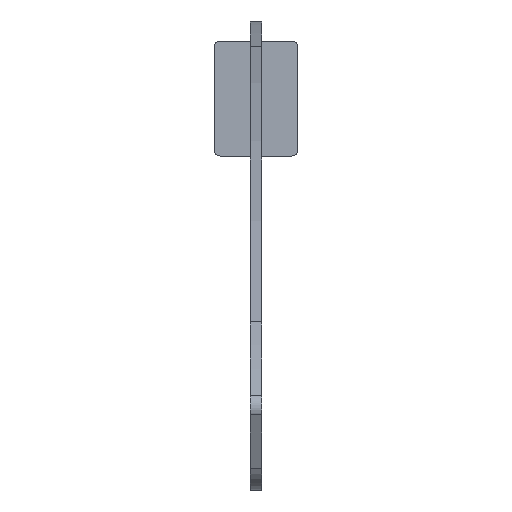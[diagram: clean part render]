
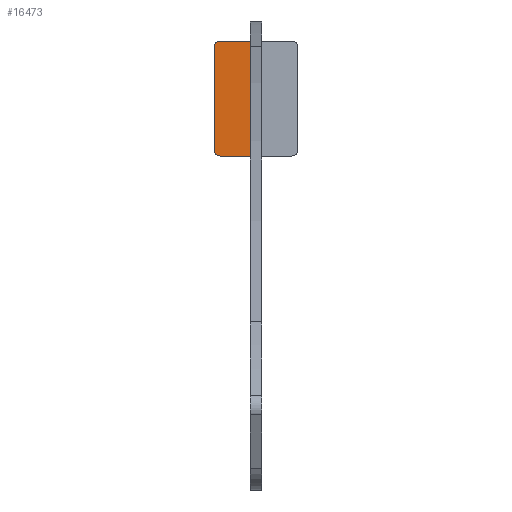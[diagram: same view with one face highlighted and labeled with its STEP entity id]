
A CAD part, front view. The second image highlights one B-rep face of the part: STEP entity #16473.
In plain terms, the highlighted planar face has unit normal (0, -1, 0).
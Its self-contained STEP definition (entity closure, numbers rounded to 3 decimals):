
#149 = CARTESIAN_POINT ( 'NONE',  ( -6.5, 0., -9.403 ) ) ;
#470 = VECTOR ( 'NONE', #1016, 1000. ) ;
#737 = CARTESIAN_POINT ( 'NONE',  ( -7.5, 0., -9.403 ) ) ;
#822 = ORIENTED_EDGE ( 'NONE', *, *, #17150, .T. ) ;
#1016 = DIRECTION ( 'NONE',  ( 0., 0., -1. ) ) ;
#1884 = AXIS2_PLACEMENT_3D ( 'NONE', #15625, #6680, #8384 ) ;
#1922 = ORIENTED_EDGE ( 'NONE', *, *, #14625, .T. ) ;
#3176 = CARTESIAN_POINT ( 'NONE',  ( -1., 0., -10.403 ) ) ;
#3283 = EDGE_CURVE ( 'NONE', #7817, #4105, #15095, .T. ) ;
#3294 = CARTESIAN_POINT ( 'NONE',  ( -7.5, 0., 9.403 ) ) ;
#4105 = VERTEX_POINT ( 'NONE', #11187 ) ;
#4106 = DIRECTION ( 'NONE',  ( 0., -1., 0. ) ) ;
#4158 = DIRECTION ( 'NONE',  ( -1., 0., 0. ) ) ;
#4391 = EDGE_CURVE ( 'NONE', #7123, #7817, #12631, .T. ) ;
#4488 = DIRECTION ( 'NONE',  ( 0., -1., 0. ) ) ;
#5184 = CIRCLE ( 'NONE', #18472, 1. ) ;
#5462 = PLANE ( 'NONE',  #1884 ) ;
#5610 = ORIENTED_EDGE ( 'NONE', *, *, #3283, .T. ) ;
#6680 = DIRECTION ( 'NONE',  ( 0., 1., 0. ) ) ;
#6870 = EDGE_CURVE ( 'NONE', #11157, #4105, #15440, .T. ) ;
#7123 = VERTEX_POINT ( 'NONE', #3294 ) ;
#7611 = DIRECTION ( 'NONE',  ( -1., 0., 0. ) ) ;
#7817 = VERTEX_POINT ( 'NONE', #737 ) ;
#8384 = DIRECTION ( 'NONE',  ( 0., 0., 1. ) ) ;
#8885 = ORIENTED_EDGE ( 'NONE', *, *, #4391, .T. ) ;
#8984 = LINE ( 'NONE', #3176, #12414 ) ;
#9932 = LINE ( 'NONE', #15687, #16075 ) ;
#9984 = AXIS2_PLACEMENT_3D ( 'NONE', #149, #4488, #13011 ) ;
#10169 = EDGE_CURVE ( 'NONE', #18293, #11157, #8984, .T. ) ;
#10426 = VECTOR ( 'NONE', #4158, 1000. ) ;
#11157 = VERTEX_POINT ( 'NONE', #16992 ) ;
#11187 = CARTESIAN_POINT ( 'NONE',  ( -6.5, 0., -10.403 ) ) ;
#11226 = DIRECTION ( 'NONE',  ( 0., 0., 1. ) ) ;
#11406 = ORIENTED_EDGE ( 'NONE', *, *, #10169, .F. ) ;
#12414 = VECTOR ( 'NONE', #13124, 1000. ) ;
#12436 = CARTESIAN_POINT ( 'NONE',  ( -6.5, 0., 9.403 ) ) ;
#12631 = LINE ( 'NONE', #15230, #470 ) ;
#12969 = ORIENTED_EDGE ( 'NONE', *, *, #6870, .F. ) ;
#13011 = DIRECTION ( 'NONE',  ( 0., 0., 1. ) ) ;
#13124 = DIRECTION ( 'NONE',  ( 0., 0., -1. ) ) ;
#13576 = VERTEX_POINT ( 'NONE', #14077 ) ;
#14077 = CARTESIAN_POINT ( 'NONE',  ( -6.5, 0., 10.403 ) ) ;
#14625 = EDGE_CURVE ( 'NONE', #13576, #7123, #5184, .T. ) ;
#15095 = CIRCLE ( 'NONE', #9984, 1. ) ;
#15230 = CARTESIAN_POINT ( 'NONE',  ( -7.5, 0., -10.403 ) ) ;
#15340 = CARTESIAN_POINT ( 'NONE',  ( 7.5, 0., -10.403 ) ) ;
#15440 = LINE ( 'NONE', #15340, #10426 ) ;
#15445 = FACE_OUTER_BOUND ( 'NONE', #15726, .T. ) ;
#15625 = CARTESIAN_POINT ( 'NONE',  ( 7.5, 0., -10.403 ) ) ;
#15687 = CARTESIAN_POINT ( 'NONE',  ( 7.5, 0., 10.403 ) ) ;
#15726 = EDGE_LOOP ( 'NONE', ( #8885, #5610, #12969, #11406, #822, #1922 ) ) ;
#16075 = VECTOR ( 'NONE', #7611, 1000. ) ;
#16473 = ADVANCED_FACE ( 'NONE', ( #15445 ), #5462, .F. ) ;
#16832 = CARTESIAN_POINT ( 'NONE',  ( -1., 0., 10.403 ) ) ;
#16992 = CARTESIAN_POINT ( 'NONE',  ( -1., 0., -10.403 ) ) ;
#17150 = EDGE_CURVE ( 'NONE', #18293, #13576, #9932, .T. ) ;
#18293 = VERTEX_POINT ( 'NONE', #16832 ) ;
#18472 = AXIS2_PLACEMENT_3D ( 'NONE', #12436, #4106, #11226 ) ;
